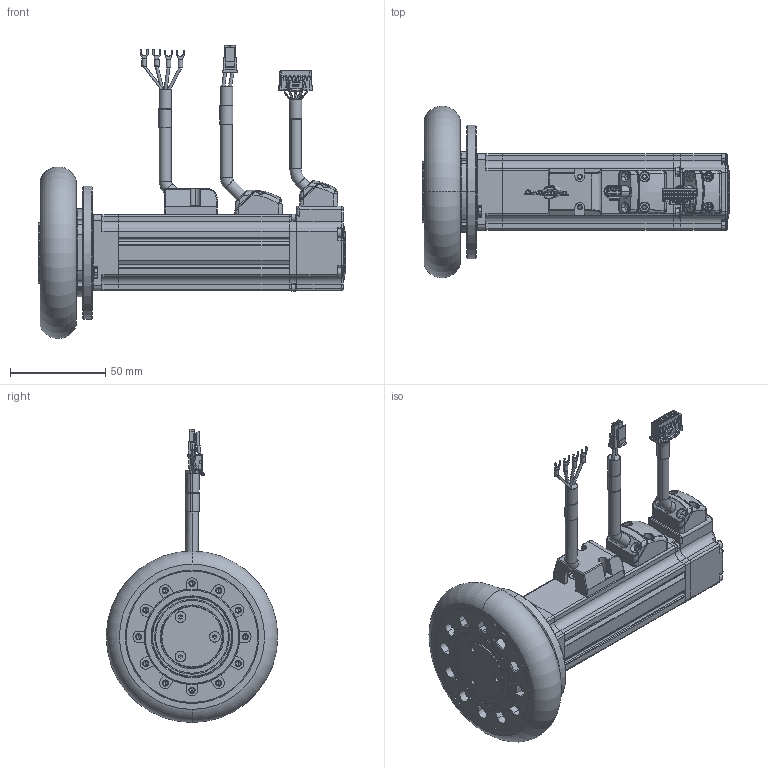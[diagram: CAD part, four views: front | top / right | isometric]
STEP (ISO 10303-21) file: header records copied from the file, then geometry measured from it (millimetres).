
FILE_DESCRIPTION((''),'2;1');
FILE_NAME('MSD90--010-30JSL-B_ASM','2026-05-21T15:46:56',('MS28159'),(''),'CREO PARAMETRIC BY PTC INC, 2018100','CREO PARAMETRIC BY PTC INC, 2018100','');
FILE_SCHEMA(('CONFIG_CONTROL_DESIGN'));
Length unit declared in the file: millimetre
Products named in the file (21): 4294404004348_-1720001_1_1; 4294404004348_-6520001_1_1; NONE_1_2_1_1_2_1_1; NONE_1_2_1_1_2_1_2; NONE_1_2_1_1_2_1_ASM; 4294404004348_-1310001_1_1; 0226-42191201014230001_1_1; 4294404004348_-1850001_1_1; 4294404004348_-1860001_1_1; 4294404004348_-1930001_1_1; 4294404004348_-1940001_1_1; 4294404004348_-1950001_1_1; AEQ-042C-004-01__X2_65E053058_1_ASM; 2_100_1-23134_1; 2_100_1-23353_1; 3698201102390_40SV__X2_530580_2_ASM; ASM0007_ASM_1_ASM_1_ASM; AEQ062-XX-XX_ASM_1_ASM_1_ASM; MSD90--010-30JL-0001_ASM_1_ASM; SM0402-SL-KCY-BNV_ASM; MSD90--010-30JSL-B_ASM
Assembly tree (20 placements, depth 6):
  MSD90--010-30JSL-B_ASM
    MSD90--010-30JL-0001_ASM_1_ASM
      AEQ062-XX-XX_ASM_1_ASM_1_ASM
        AEQ-042C-004-01__X2_65E053058_1_ASM
          4294404004348_-1720001_1_1
          4294404004348_-6520001_1_1
          NONE_1_2_1_1_2_1_ASM
            NONE_1_2_1_1_2_1_1
            NONE_1_2_1_1_2_1_2
          4294404004348_-1310001_1_1
          0226-42191201014230001_1_1
          4294404004348_-1850001_1_1
          4294404004348_-1860001_1_1
          4294404004348_-1930001_1_1
          4294404004348_-1940001_1_1
          4294404004348_-1950001_1_1
        ASM0007_ASM_1_ASM_1_ASM
          3698201102390_40SV__X2_530580_2_ASM
            2_100_1-23134_1
            2_100_1-23353_1
    SM0402-SL-KCY-BNV_ASM
Bounding box: 161.5 x 90 x 153.82 mm (x, y, z)
Volume: 118261.5 mm3; surface area: 149728.6 mm2
Topology: 13 solids, 68 shells, 3438 faces, 8482 edges, 5228 vertices
Faces by surface type: plane 1418, cylinder 1131, cone 343, torus 218, bspline 183, extrusion 75, sphere 70
Entity records: 122813 total; most frequent: CARTESIAN_POINT 41073, DIRECTION 17265, ORIENTED_EDGE 16614, EDGE_CURVE 8311, AXIS2_PLACEMENT_3D 6407, VERTEX_POINT 5228, VECTOR 4451, LINE 4376
